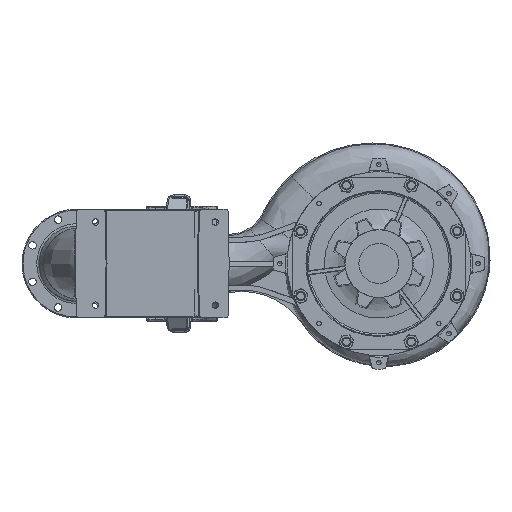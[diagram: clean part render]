
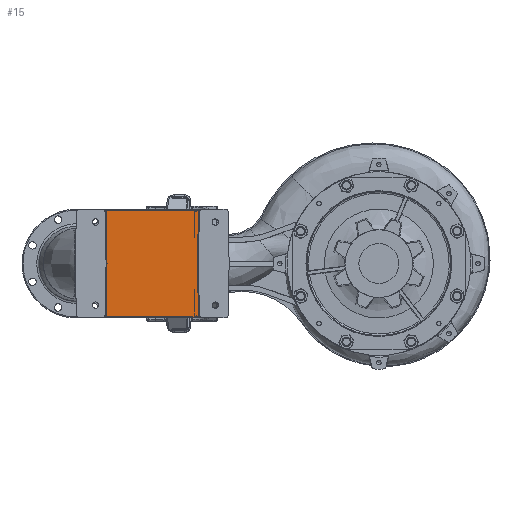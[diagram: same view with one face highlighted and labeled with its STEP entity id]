
A CAD part, front view. The second image highlights one B-rep face of the part: STEP entity #15.
In plain terms, the highlighted planar face has unit normal (0, -1, 0).
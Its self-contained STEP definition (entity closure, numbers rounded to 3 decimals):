
#15 = ADVANCED_FACE ( 'NONE', ( #190867 ), #129999, .T. ) ;
#7467 = VECTOR ( 'NONE', #109898, 1000. ) ;
#7847 = ORIENTED_EDGE ( 'NONE', *, *, #200358, .T. ) ;
#15163 = CARTESIAN_POINT ( 'NONE',  ( -106.378, -506.797, 160.227 ) ) ;
#16311 = VERTEX_POINT ( 'NONE', #90241 ) ;
#18226 = EDGE_LOOP ( 'NONE', ( #52623, #7847, #82714, #124395, #215716, #39206, #158759, #133810, #218078, #225398 ) ) ;
#24188 = EDGE_CURVE ( 'NONE', #92675, #87010, #185714, .T. ) ;
#24463 = LINE ( 'NONE', #26991, #82554 ) ;
#26719 = DIRECTION ( 'NONE',  ( 0.017, 0., -1. ) ) ;
#26991 = CARTESIAN_POINT ( 'NONE',  ( 179.484, -506.797, -0.052 ) ) ;
#29333 = LINE ( 'NONE', #150668, #59692 ) ;
#30871 = DIRECTION ( 'NONE',  ( 0., 0., -1. ) ) ;
#34736 = CARTESIAN_POINT ( 'NONE',  ( -199.549, -506.797, 167. ) ) ;
#38238 = LINE ( 'NONE', #170258, #96202 ) ;
#39206 = ORIENTED_EDGE ( 'NONE', *, *, #185901, .T. ) ;
#39695 = DIRECTION ( 'NONE',  ( 0., 0., -1. ) ) ;
#45803 = EDGE_CURVE ( 'NONE', #87010, #128541, #54172, .T. ) ;
#51166 = CARTESIAN_POINT ( 'NONE',  ( -119.376, -506.797, -160. ) ) ;
#52623 = ORIENTED_EDGE ( 'NONE', *, *, #99311, .T. ) ;
#54172 = LINE ( 'NONE', #180799, #7467 ) ;
#56252 = EDGE_CURVE ( 'NONE', #195075, #212758, #146946, .T. ) ;
#57830 = VECTOR ( 'NONE', #88654, 1000. ) ;
#59692 = VECTOR ( 'NONE', #62751, 1000. ) ;
#61764 = DIRECTION ( 'NONE',  ( -0.017, 0., 1. ) ) ;
#62526 = AXIS2_PLACEMENT_3D ( 'NONE', #167995, #180981, #169226 ) ;
#62751 = DIRECTION ( 'NONE',  ( -0.017, 0., -1. ) ) ;
#70147 = VERTEX_POINT ( 'NONE', #85814 ) ;
#71898 = CARTESIAN_POINT ( 'NONE',  ( -106.378, -506.797, -160.227 ) ) ;
#77686 = CARTESIAN_POINT ( 'NONE',  ( -103.581, -506.797, 0. ) ) ;
#79377 = DIRECTION ( 'NONE',  ( 0.017, 0., 1. ) ) ;
#82554 = VECTOR ( 'NONE', #61764, 1000. ) ;
#82714 = ORIENTED_EDGE ( 'NONE', *, *, #225883, .T. ) ;
#85814 = CARTESIAN_POINT ( 'NONE',  ( 179.483, -506.797, 0. ) ) ;
#86602 = DIRECTION ( 'NONE',  ( 0., 1., 0. ) ) ;
#87010 = VERTEX_POINT ( 'NONE', #227988 ) ;
#88535 = AXIS2_PLACEMENT_3D ( 'NONE', #51166, #86602, #190761 ) ;
#88654 = DIRECTION ( 'NONE',  ( -1., 0., 0. ) ) ;
#90241 = CARTESIAN_POINT ( 'NONE',  ( 182.28, -506.797, 160.227 ) ) ;
#92675 = VERTEX_POINT ( 'NONE', #71898 ) ;
#96202 = VECTOR ( 'NONE', #79377, 1000. ) ;
#98157 = EDGE_CURVE ( 'NONE', #212758, #92675, #29333, .T. ) ;
#99311 = EDGE_CURVE ( 'NONE', #128541, #106103, #142299, .T. ) ;
#106103 = VERTEX_POINT ( 'NONE', #164098 ) ;
#109898 = DIRECTION ( 'NONE',  ( 1., 0., 0. ) ) ;
#110280 = LINE ( 'NONE', #34736, #57830 ) ;
#112930 = DIRECTION ( 'NONE',  ( 0., 1., 0. ) ) ;
#113760 = DIRECTION ( 'NONE',  ( 0., 1., 0. ) ) ;
#118049 = CARTESIAN_POINT ( 'NONE',  ( 184.324, -506.797, -167. ) ) ;
#124395 = ORIENTED_EDGE ( 'NONE', *, *, #199032, .T. ) ;
#128541 = VERTEX_POINT ( 'NONE', #118049 ) ;
#129999 = PLANE ( 'NONE',  #62526 ) ;
#131512 = DIRECTION ( 'NONE',  ( 0., 0., -1. ) ) ;
#133810 = ORIENTED_EDGE ( 'NONE', *, *, #98157, .T. ) ;
#135264 = CIRCLE ( 'NONE', #146692, 13. ) ;
#136592 = DIRECTION ( 'NONE',  ( 0., 1., 0. ) ) ;
#142299 = CIRCLE ( 'NONE', #205146, 13. ) ;
#143870 = CARTESIAN_POINT ( 'NONE',  ( -108.421, -506.797, 167. ) ) ;
#146692 = AXIS2_PLACEMENT_3D ( 'NONE', #208234, #136592, #30871 ) ;
#146946 = LINE ( 'NONE', #185611, #188294 ) ;
#150668 = CARTESIAN_POINT ( 'NONE',  ( -106.378, -506.797, -160.227 ) ) ;
#152731 = AXIS2_PLACEMENT_3D ( 'NONE', #186198, #113760, #131512 ) ;
#157159 = CARTESIAN_POINT ( 'NONE',  ( 184.324, -506.797, 167. ) ) ;
#158759 = ORIENTED_EDGE ( 'NONE', *, *, #56252, .T. ) ;
#164098 = CARTESIAN_POINT ( 'NONE',  ( 182.28, -506.797, -160.227 ) ) ;
#167995 = CARTESIAN_POINT ( 'NONE',  ( -199.549, -506.797, 0. ) ) ;
#169226 = DIRECTION ( 'NONE',  ( 0., 0., -1. ) ) ;
#170258 = CARTESIAN_POINT ( 'NONE',  ( 182.28, -506.797, 160.227 ) ) ;
#180799 = CARTESIAN_POINT ( 'NONE',  ( 195.278, -506.797, -167. ) ) ;
#180981 = DIRECTION ( 'NONE',  ( 0., -1., 0. ) ) ;
#181448 = EDGE_CURVE ( 'NONE', #218530, #205912, #110280, .T. ) ;
#185611 = CARTESIAN_POINT ( 'NONE',  ( -103.582, -506.797, 0.052 ) ) ;
#185714 = CIRCLE ( 'NONE', #88535, 13. ) ;
#185901 = EDGE_CURVE ( 'NONE', #205912, #195075, #200569, .T. ) ;
#186198 = CARTESIAN_POINT ( 'NONE',  ( -119.376, -506.797, 160. ) ) ;
#188294 = VECTOR ( 'NONE', #26719, 1000. ) ;
#190761 = DIRECTION ( 'NONE',  ( 0., 0., -1. ) ) ;
#190867 = FACE_OUTER_BOUND ( 'NONE', #18226, .T. ) ;
#195075 = VERTEX_POINT ( 'NONE', #15163 ) ;
#199032 = EDGE_CURVE ( 'NONE', #16311, #218530, #135264, .T. ) ;
#200358 = EDGE_CURVE ( 'NONE', #106103, #70147, #24463, .T. ) ;
#200569 = CIRCLE ( 'NONE', #152731, 13. ) ;
#205146 = AXIS2_PLACEMENT_3D ( 'NONE', #216997, #112930, #39695 ) ;
#205912 = VERTEX_POINT ( 'NONE', #143870 ) ;
#208234 = CARTESIAN_POINT ( 'NONE',  ( 195.278, -506.797, 160. ) ) ;
#212758 = VERTEX_POINT ( 'NONE', #77686 ) ;
#215716 = ORIENTED_EDGE ( 'NONE', *, *, #181448, .T. ) ;
#216997 = CARTESIAN_POINT ( 'NONE',  ( 195.278, -506.797, -160. ) ) ;
#218078 = ORIENTED_EDGE ( 'NONE', *, *, #24188, .T. ) ;
#218530 = VERTEX_POINT ( 'NONE', #157159 ) ;
#225398 = ORIENTED_EDGE ( 'NONE', *, *, #45803, .T. ) ;
#225883 = EDGE_CURVE ( 'NONE', #70147, #16311, #38238, .T. ) ;
#227988 = CARTESIAN_POINT ( 'NONE',  ( -108.421, -506.797, -167. ) ) ;
